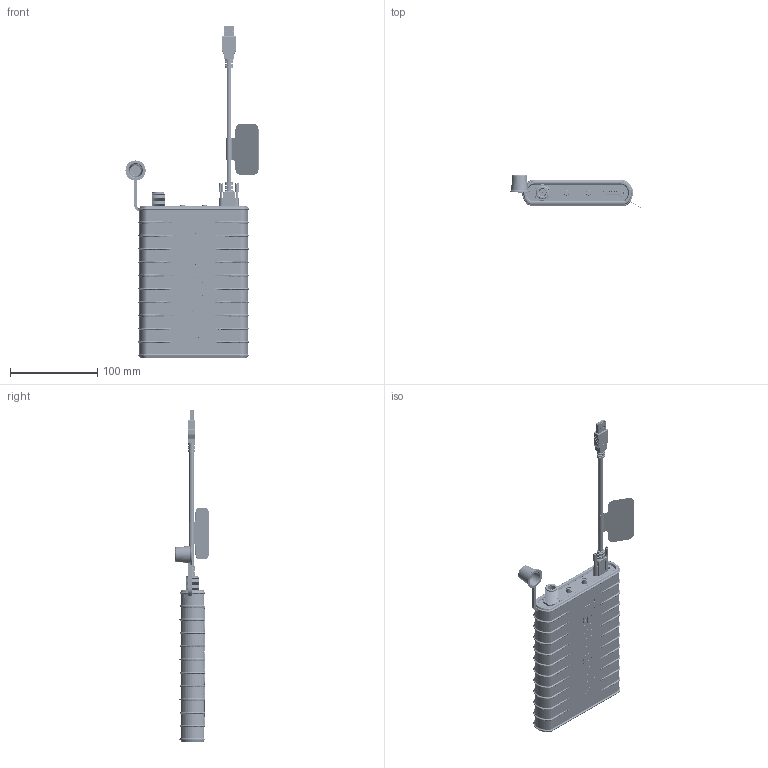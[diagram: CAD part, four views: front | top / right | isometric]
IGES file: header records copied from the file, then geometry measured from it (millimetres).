
Start section: SolidWorks IGES file using NURBS representation for surfaces
Global section: file name: R:\Eng\jimpi\Curveball\models\TEMP\IGES EXTERNAL ONLY\Curveball N.IGS; native system: SolidWorks 2014; preprocessor: SolidWorks 2014; author: jimpi; date: 150526.114710; units: inch
Bounding box: 152.62 x 38.57 x 380.82 mm (x, y, z)
Surface area: 278592.8 mm2 (no closed solid volume)
Topology: 0 solids, 0 shells, 8374 faces, 203524 edges, 247062 vertices
Faces by surface type: bspline 8374
